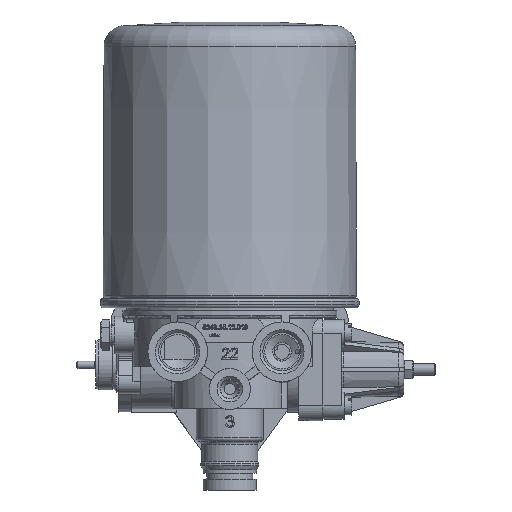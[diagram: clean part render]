
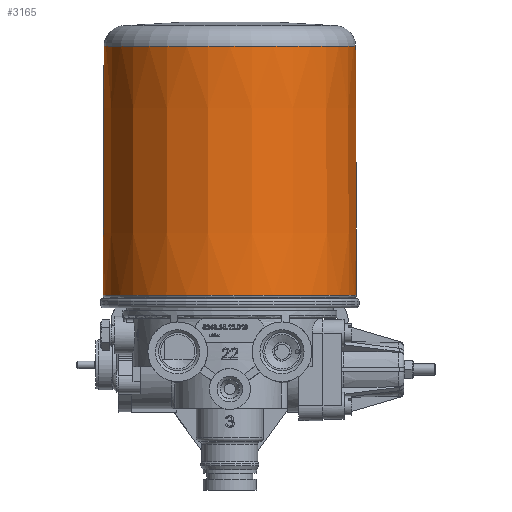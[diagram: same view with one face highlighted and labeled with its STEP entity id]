
A CAD part, front view. The second image highlights one B-rep face of the part: STEP entity #3165.
In plain terms, the highlighted conical face has half-angle 0.208 degrees and reference radius 68 mm.
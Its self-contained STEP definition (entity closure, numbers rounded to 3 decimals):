
#718=CONICAL_SURFACE('',#24956,68.,0.208);
#1893=FACE_BOUND('',#6429,.T.);
#1894=FACE_BOUND('',#6430,.T.);
#3165=ADVANCED_FACE('',(#1893,#1894),#718,.T.);
#6429=EDGE_LOOP('',(#13025));
#6430=EDGE_LOOP('',(#13026));
#7696=CIRCLE('',#24954,67.985);
#7697=CIRCLE('',#24955,67.5);
#13025=ORIENTED_EDGE('',*,*,#19382,.F.);
#13026=ORIENTED_EDGE('',*,*,#19383,.F.);
#16321=VERTEX_POINT('',#42988);
#16322=VERTEX_POINT('',#42990);
#19382=EDGE_CURVE('',#16321,#16321,#7696,.T.);
#19383=EDGE_CURVE('',#16322,#16322,#7697,.T.);
#24954=AXIS2_PLACEMENT_3D('',#42987,#30405,#30406);
#24955=AXIS2_PLACEMENT_3D('',#42989,#30407,#30408);
#24956=AXIS2_PLACEMENT_3D('',#42991,#30409,#30410);
#30405=DIRECTION('',(0.,0.,-1.));
#30406=DIRECTION('',(-1.,0.,0.));
#30407=DIRECTION('',(0.,0.,1.));
#30408=DIRECTION('',(1.,0.,0.));
#30409=DIRECTION('',(0.,0.,-1.));
#30410=DIRECTION('',(1.,0.,0.));
#42987=CARTESIAN_POINT('',(0.,0.,34.3));
#42988=CARTESIAN_POINT('',(-67.985,0.,34.3));
#42989=CARTESIAN_POINT('',(0.,0.,168.04));
#42990=CARTESIAN_POINT('',(67.5,0.,168.04));
#42991=CARTESIAN_POINT('',(0.,0.,30.296));
